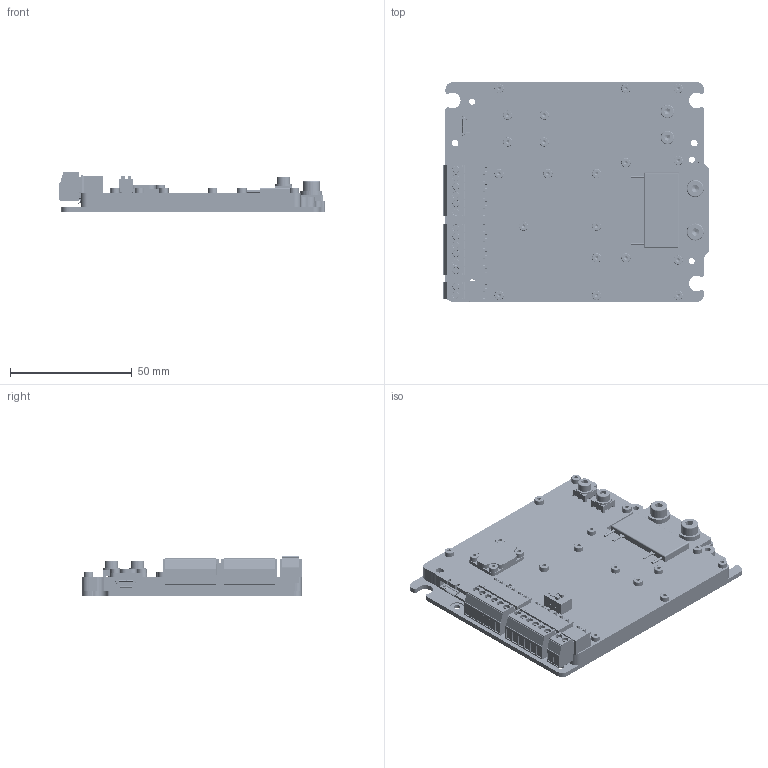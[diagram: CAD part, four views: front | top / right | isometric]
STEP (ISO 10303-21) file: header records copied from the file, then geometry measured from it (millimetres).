
FILE_DESCRIPTION(/* description */ ('STEP AP242 Edition 2','CAx-IF Rec.Pracs.---Representation and Presentation of Product Manufacturing Information (PMI)---4.0---2014-10-13','CAx-IF Rec.Pracs.---3D Tessellated Geometry---0.4---2014-09-14','2;1','CAx-IF Rec.Pracs.---User Defined Attributes---1.5---2016-08-15'),/* implementation_level */ '2;1');
FILE_NAME(/* name */ '6943ea32e9bb0a312f599612',/* time_stamp */ '2025-12-18T11:49:28Z',/* author */ (''),/* organization */ (''),/* preprocessor_version */ 'ST-DEVELOPER v20',/* originating_system */ 'ONSHAPE BY PTC INC, 1.208',/* authorisation */ ' ');
FILE_SCHEMA (('AP242_MANAGED_MODEL_BASED_3D_ENGINEERING_MIM_LF { 1 0 10303 442 3 1 4 }'));
Products named in the file (2064): DRV700_ASSEMBLY; R0603_182; 13; R0603_88; SOT-23-6; User_Library-QFN-16_3x3_16; SOT669; R0603_93; R0603_148; R0603_181; C0603_20; SOT-23-3; R0603_193; SOIC-8_1; C0805; C0603_90; R0603_162; SOIC-8; C1210_5; BGA38_11P25X9_ADI; R0603_83; C1210_7; R0603_183; C1210_21; C0603_51; R0603_28; R0603_100; R0603_136; L1206_1; pin_1; C0603_121; C0603_92; pin; C1210_4; Hex socket head cap screw M2x0.40 x 6; L0805_1; R0603_138; R0603_68; REU0008A_FRAME; C1210_54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
Assembly tree (2088 placements, depth 2):
  DRV700_ASSEMBLY
    R0603_182
    13
    R0603_88
    SOT-23-6
    User_Library-QFN-16_3x3_16
    SOT669
    R0603_93
    R0603_148
    R0603_181
    C0603_20
    SOT-23-3
    R0603_193
    SOIC-8_1
    C0805
    C0603_90
    R0603_162
    SOIC-8
    C1210_5
    BGA38_11P25X9_ADI
    R0603_83
    C1210_7
    R0603_183
    C1210_21
    C0603_51
    R0603_28
    R0603_100
    R0603_136
    L1206_1
    pin_1
    C0603_121
    C0603_92
    SOIC-8_1
    pin
    C1210_4
    Hex socket head cap screw M2x0.40 x 6  x16
    L0805_1
    R0603_138
    R0603_68
    REU0008A_FRAME
    C1210_54
    C0603_56
    SOIC-8_1
    C1210_23
    C2917_TANT_1
    C0603_126
    R0603_200
    C2917_TANT
    C0603_65
    C0603_20
    BGA38_11P25X9_ADI
    C0603_84
    R0603_54
    R0603_214
    LEAD-DBQ0016B_15
    LQFN20_4x3
    QFN20_4x4
    C1210_29
    C0603_91
    SOT-23-5_10
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Bounding box: 108.85 x 90 x 16.12 mm (x, y, z)
Volume: 55065.5 mm3; surface area: 75879.8 mm2
Topology: 2088 solids, 2088 shells, 20107 faces, 45987 edges, 30130 vertices
Faces by surface type: plane 16768, cylinder 2805, cone 169, torus 158, sphere 148, bspline 59
Full cylindrical faces by diameter (mm): 0.207 x6, 0.216 x1, 0.25 x18, 0.288 x1, 0.3 x2, 0.4 x13, 0.443 x2, 0.45 x1, 0.5 x1, 0.75 x10, 0.8 x4, 1 x2, 1.2 x28, 1.472 x1, 1.6 x20, 1.75 x8, 2 x34, 2.1 x8, 2.4 x20, 2.459 x2, 2.5 x5, 2.7 x5, 2.8 x14, 2.9 x28, 3 x2, 3.2 x4, 3.3 x2, 3.5 x5, 3.8 x20, 3.9 x2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
Entity records: 603148 total; most frequent: CARTESIAN_POINT 97901, DIRECTION 92506, ORIENTED_EDGE 88348, EDGE_CURVE 44174, LINE 38178, VECTOR 38178, VERTEX_POINT 29242, AXIS2_PLACEMENT_3D 27164
